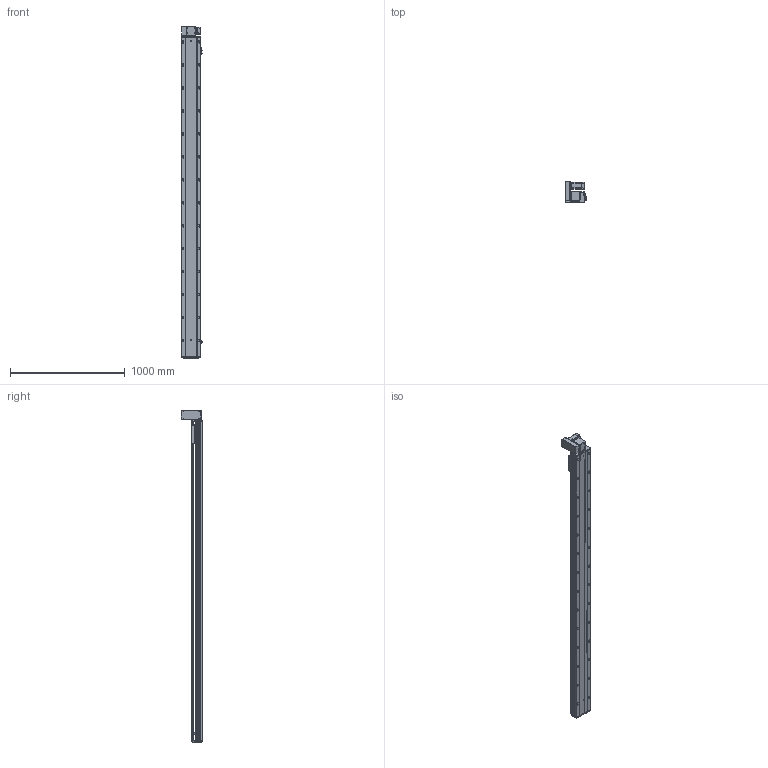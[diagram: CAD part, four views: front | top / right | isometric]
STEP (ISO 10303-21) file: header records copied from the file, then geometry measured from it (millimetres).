
FILE_DESCRIPTION (( 'STEP AP203' ), '1' );
FILE_NAME ('RY170-T-300-UL-P400W.SLDASM_2500.step', '2021-03-02T02:15:12', ( '盈信电脑' ), ( '东莞市道滘镇水果街19号' ), 'SwSTEP 2.0', 'SolidWorks 2012', '' );
FILE_SCHEMA (( 'CONFIG_CONTROL_DESIGN' ));
Length unit declared in the file: millimetre
Products named in the file (18): 15; RY170-T-300-UL-P400W.SLDASM_2500; RY170肮祭謫萇儂欶; RY120-T主同步轮轴承压盖; RY170同步轮电机安装板(400W); RY170-T蹟翐M4; RY170-T肮祭湍揤踡輸2; 滅袉蝶18-10; RY170-T肮祭謫裔啣; RY170翋肮祭謫釱; RY170-T肮祭湍揤踡輸1; RY170肮祭謫ヶ裔啣; RY170外置感应片(200共用）; RY170肮祭湍臏賑輸; 覜茼ん672; RY170-T-300肮祭謫倰第裔啣-DL_2500; RY170綴裔啣; RY170-T-300肮祭謫倰第菁釱-DL_2500
Assembly tree (20 placements, depth 2):
  RY170-T-300-UL-P400W.SLDASM_2500
    RY170-T-300肮祭謫倰第菁釱-DL_2500
    RY170肮祭湍臏賑輸
    RY170-T-300肮祭謫倰第裔啣-DL_2500
    RY170綴裔啣
    覜茼ん672  x3
    RY170外置感应片(200共用）
    RY170肮祭謫ヶ裔啣
    RY170翋肮祭謫釱
    RY170-T肮祭湍揤踡輸1
    RY170-T肮祭湍揤踡輸2
    RY170-T肮祭謫裔啣
    滅袉蝶18-10  x2
    RY120-T主同步轮轴承压盖
    RY170肮祭謫萇儂欶
    RY170同步轮电机安装板(400W)
    RY170-T蹟翐M4
    15
Bounding box: 183.7 x 184 x 2888 mm (x, y, z)
Volume: 13132425.4 mm3; surface area: 4536790.6 mm2
Topology: 20 solids, 20 shells, 2961 faces, 8382 edges, 5313 vertices
Faces by surface type: cylinder 1432, plane 1159, cone 340, bspline 30
Entity records: 96472 total; most frequent: CARTESIAN_POINT 22807, ORIENTED_EDGE 15200, DIRECTION 14728, EDGE_CURVE 7600, AXIS2_PLACEMENT_3D 5256, VERTEX_POINT 4981, VECTOR 4216, LINE 4216
